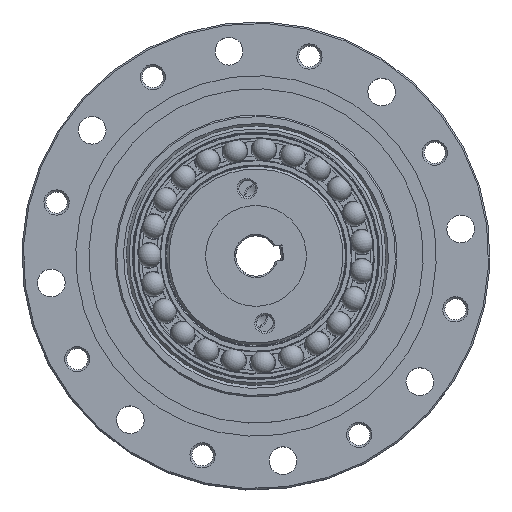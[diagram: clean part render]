
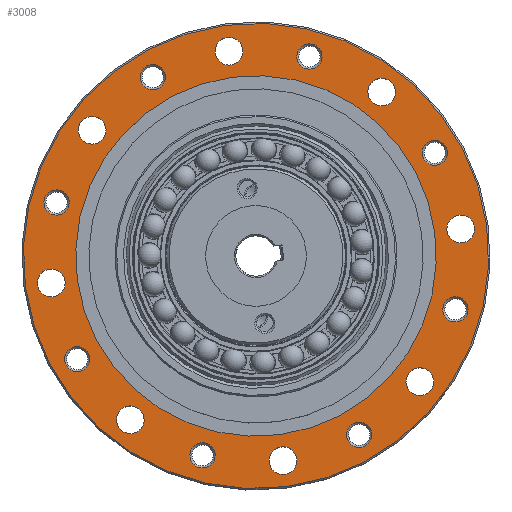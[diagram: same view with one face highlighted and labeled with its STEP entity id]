
A CAD part, top view. The second image highlights one B-rep face of the part: STEP entity #3008.
In plain terms, the highlighted planar face has unit normal (0, 0, 1) as drawn and (1, 0, 0) by its records, which use the part's own axes.
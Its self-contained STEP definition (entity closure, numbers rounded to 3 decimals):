
#1823=PLANE('',#10270);
#1976=FACE_BOUND('',#4088,.T.);
#1977=FACE_BOUND('',#4089,.T.);
#1978=FACE_BOUND('',#4090,.T.);
#1979=FACE_BOUND('',#4091,.T.);
#1980=FACE_BOUND('',#4092,.T.);
#1981=FACE_BOUND('',#4093,.T.);
#1982=FACE_BOUND('',#4094,.T.);
#1983=FACE_BOUND('',#4095,.T.);
#1984=FACE_BOUND('',#4096,.T.);
#1985=FACE_BOUND('',#4097,.T.);
#1986=FACE_BOUND('',#4098,.T.);
#1987=FACE_BOUND('',#4099,.T.);
#1988=FACE_BOUND('',#4100,.T.);
#1989=FACE_BOUND('',#4101,.T.);
#1990=FACE_BOUND('',#4102,.T.);
#1991=FACE_BOUND('',#4103,.T.);
#1992=FACE_BOUND('',#4104,.T.);
#1993=FACE_BOUND('',#4105,.T.);
#3008=ADVANCED_FACE('F17',(#1976,#1977,#1978,#1979,#1980,#1981,#1982,#1983,
#1984,#1985,#1986,#1987,#1988,#1989,#1990,#1991,#1992,#1993),#1823,.T.);
#4088=EDGE_LOOP('',(#5736));
#4089=EDGE_LOOP('',(#5737));
#4090=EDGE_LOOP('',(#5738));
#4091=EDGE_LOOP('',(#5739));
#4092=EDGE_LOOP('',(#5740));
#4093=EDGE_LOOP('',(#5741));
#4094=EDGE_LOOP('',(#5742));
#4095=EDGE_LOOP('',(#5743));
#4096=EDGE_LOOP('',(#5744));
#4097=EDGE_LOOP('',(#5745));
#4098=EDGE_LOOP('',(#5746));
#4099=EDGE_LOOP('',(#5747));
#4100=EDGE_LOOP('',(#5748));
#4101=EDGE_LOOP('',(#5749));
#4102=EDGE_LOOP('',(#5750));
#4103=EDGE_LOOP('',(#5751));
#4104=EDGE_LOOP('',(#5752));
#4105=EDGE_LOOP('',(#5753));
#5736=ORIENTED_EDGE('',*,*,#8497,.T.);
#5737=ORIENTED_EDGE('',*,*,#8498,.T.);
#5738=ORIENTED_EDGE('',*,*,#8499,.T.);
#5739=ORIENTED_EDGE('',*,*,#8500,.T.);
#5740=ORIENTED_EDGE('',*,*,#8501,.T.);
#5741=ORIENTED_EDGE('',*,*,#8502,.T.);
#5742=ORIENTED_EDGE('',*,*,#8503,.T.);
#5743=ORIENTED_EDGE('',*,*,#8504,.T.);
#5744=ORIENTED_EDGE('',*,*,#8455,.T.);
#5745=ORIENTED_EDGE('',*,*,#8493,.T.);
#5746=ORIENTED_EDGE('',*,*,#8487,.T.);
#5747=ORIENTED_EDGE('',*,*,#8481,.T.);
#5748=ORIENTED_EDGE('',*,*,#8475,.T.);
#5749=ORIENTED_EDGE('',*,*,#8452,.F.);
#5750=ORIENTED_EDGE('',*,*,#8478,.T.);
#5751=ORIENTED_EDGE('',*,*,#8484,.T.);
#5752=ORIENTED_EDGE('',*,*,#8490,.T.);
#5753=ORIENTED_EDGE('',*,*,#8496,.T.);
#7596=VERTEX_POINT('',#14534);
#7597=VERTEX_POINT('',#14538);
#7608=VERTEX_POINT('',#14578);
#7610=VERTEX_POINT('',#14584);
#7612=VERTEX_POINT('',#14590);
#7614=VERTEX_POINT('',#14596);
#7616=VERTEX_POINT('',#14602);
#7618=VERTEX_POINT('',#14608);
#7620=VERTEX_POINT('',#14614);
#7622=VERTEX_POINT('',#14620);
#7624=VERTEX_POINT('',#14626);
#7625=VERTEX_POINT('',#14628);
#7626=VERTEX_POINT('',#14630);
#7627=VERTEX_POINT('',#14632);
#7628=VERTEX_POINT('',#14634);
#7629=VERTEX_POINT('',#14636);
#7630=VERTEX_POINT('',#14638);
#7631=VERTEX_POINT('',#14640);
#8452=EDGE_CURVE('',#7596,#7596,#9454,.T.);
#8455=EDGE_CURVE('',#7597,#7597,#9456,.T.);
#8475=EDGE_CURVE('',#7608,#7608,#9467,.T.);
#8478=EDGE_CURVE('',#7610,#7610,#9469,.T.);
#8481=EDGE_CURVE('',#7612,#7612,#9471,.T.);
#8484=EDGE_CURVE('',#7614,#7614,#9473,.T.);
#8487=EDGE_CURVE('',#7616,#7616,#9475,.T.);
#8490=EDGE_CURVE('',#7618,#7618,#9477,.T.);
#8493=EDGE_CURVE('',#7620,#7620,#9479,.T.);
#8496=EDGE_CURVE('',#7622,#7622,#9481,.T.);
#8497=EDGE_CURVE('',#7624,#7624,#9482,.T.);
#8498=EDGE_CURVE('',#7625,#7625,#9483,.T.);
#8499=EDGE_CURVE('',#7626,#7626,#9484,.T.);
#8500=EDGE_CURVE('',#7627,#7627,#9485,.T.);
#8501=EDGE_CURVE('',#7628,#7628,#9486,.T.);
#8502=EDGE_CURVE('',#7629,#7629,#9487,.T.);
#8503=EDGE_CURVE('',#7630,#7630,#9488,.T.);
#8504=EDGE_CURVE('',#7631,#7631,#9489,.T.);
#9454=CIRCLE('',#10216,35.8);
#9456=CIRCLE('',#10219,46.2);
#9467=CIRCLE('',#10239,2.75);
#9469=CIRCLE('',#10242,2.75);
#9471=CIRCLE('',#10245,2.75);
#9473=CIRCLE('',#10248,2.75);
#9475=CIRCLE('',#10251,2.75);
#9477=CIRCLE('',#10254,2.75);
#9479=CIRCLE('',#10257,2.75);
#9481=CIRCLE('',#10260,2.75);
#9482=CIRCLE('',#10262,2.5);
#9483=CIRCLE('',#10263,2.5);
#9484=CIRCLE('',#10264,2.5);
#9485=CIRCLE('',#10265,2.5);
#9486=CIRCLE('',#10266,2.5);
#9487=CIRCLE('',#10267,2.5);
#9488=CIRCLE('',#10268,2.5);
#9489=CIRCLE('',#10269,2.5);
#10216=AXIS2_PLACEMENT_3D('',#14535,#11715,#11716);
#10219=AXIS2_PLACEMENT_3D('',#14541,#11722,#11723);
#10239=AXIS2_PLACEMENT_3D('',#14581,#11771,#11772);
#10242=AXIS2_PLACEMENT_3D('',#14587,#11778,#11779);
#10245=AXIS2_PLACEMENT_3D('',#14593,#11785,#11786);
#10248=AXIS2_PLACEMENT_3D('',#14599,#11792,#11793);
#10251=AXIS2_PLACEMENT_3D('',#14605,#11799,#11800);
#10254=AXIS2_PLACEMENT_3D('',#14611,#11806,#11807);
#10257=AXIS2_PLACEMENT_3D('',#14617,#11813,#11814);
#10260=AXIS2_PLACEMENT_3D('',#14623,#11820,#11821);
#10262=AXIS2_PLACEMENT_3D('',#14625,#11824,#11825);
#10263=AXIS2_PLACEMENT_3D('',#14627,#11826,#11827);
#10264=AXIS2_PLACEMENT_3D('',#14629,#11828,#11829);
#10265=AXIS2_PLACEMENT_3D('',#14631,#11830,#11831);
#10266=AXIS2_PLACEMENT_3D('',#14633,#11832,#11833);
#10267=AXIS2_PLACEMENT_3D('',#14635,#11834,#11835);
#10268=AXIS2_PLACEMENT_3D('',#14637,#11836,#11837);
#10269=AXIS2_PLACEMENT_3D('',#14639,#11838,#11839);
#10270=AXIS2_PLACEMENT_3D('',#14641,#11840,#11841);
#11715=DIRECTION('',(1.,0.,0.));
#11716=DIRECTION('',(0.,0.,1.));
#11722=DIRECTION('',(1.,0.,0.));
#11723=DIRECTION('',(0.,0.,1.));
#11771=DIRECTION('',(-1.,0.,0.));
#11772=DIRECTION('',(0.,0.,-1.));
#11778=DIRECTION('',(-1.,0.,0.));
#11779=DIRECTION('',(0.,-0.707,-0.707));
#11785=DIRECTION('',(-1.,0.,0.));
#11786=DIRECTION('',(0.,-1.,0.));
#11792=DIRECTION('',(-1.,0.,0.));
#11793=DIRECTION('',(0.,-0.707,0.707));
#11799=DIRECTION('',(-1.,0.,0.));
#11800=DIRECTION('',(0.,0.,1.));
#11806=DIRECTION('',(-1.,0.,0.));
#11807=DIRECTION('',(0.,0.707,0.707));
#11813=DIRECTION('',(-1.,0.,0.));
#11814=DIRECTION('',(0.,1.,0.));
#11820=DIRECTION('',(-1.,0.,0.));
#11821=DIRECTION('',(0.,0.707,-0.707));
#11824=DIRECTION('',(-1.,0.,0.));
#11825=DIRECTION('',(0.,0.,-1.));
#11826=DIRECTION('',(-1.,0.,0.));
#11827=DIRECTION('',(0.,0.,-1.));
#11828=DIRECTION('',(-1.,0.,0.));
#11829=DIRECTION('',(0.,0.,-1.));
#11830=DIRECTION('',(-1.,0.,0.));
#11831=DIRECTION('',(0.,0.,-1.));
#11832=DIRECTION('',(-1.,0.,0.));
#11833=DIRECTION('',(0.,0.,-1.));
#11834=DIRECTION('',(-1.,0.,0.));
#11835=DIRECTION('',(0.,0.,-1.));
#11836=DIRECTION('',(-1.,0.,0.));
#11837=DIRECTION('',(0.,0.,-1.));
#11838=DIRECTION('',(-1.,0.,0.));
#11839=DIRECTION('',(0.,0.,-1.));
#11840=DIRECTION('',(1.,0.,0.));
#11841=DIRECTION('',(0.,0.,1.));
#14534=CARTESIAN_POINT('',(23.8,0.,35.8));
#14535=CARTESIAN_POINT('',(23.8,0.,0.));
#14538=CARTESIAN_POINT('',(23.8,0.,46.2));
#14541=CARTESIAN_POINT('',(23.8,0.,0.));
#14578=CARTESIAN_POINT('',(23.8,0.,38.25));
#14581=CARTESIAN_POINT('',(23.8,0.,41.));
#14584=CARTESIAN_POINT('',(23.8,27.047,27.047));
#14587=CARTESIAN_POINT('',(23.8,28.991,28.991));
#14590=CARTESIAN_POINT('',(23.8,38.25,0.));
#14593=CARTESIAN_POINT('',(23.8,41.,0.));
#14596=CARTESIAN_POINT('',(23.8,27.047,-27.047));
#14599=CARTESIAN_POINT('',(23.8,28.991,-28.991));
#14602=CARTESIAN_POINT('',(23.8,0.,-38.25));
#14605=CARTESIAN_POINT('',(23.8,0.,-41.));
#14608=CARTESIAN_POINT('',(23.8,-27.047,-27.047));
#14611=CARTESIAN_POINT('',(23.8,-28.991,-28.991));
#14614=CARTESIAN_POINT('',(23.8,-38.25,0.));
#14617=CARTESIAN_POINT('',(23.8,-41.,0.));
#14620=CARTESIAN_POINT('',(23.8,-27.047,27.047));
#14623=CARTESIAN_POINT('',(23.8,-28.991,28.991));
#14625=CARTESIAN_POINT('',(23.8,37.879,-15.69));
#14626=CARTESIAN_POINT('',(23.8,37.879,-18.19));
#14627=CARTESIAN_POINT('',(23.8,15.69,-37.879));
#14628=CARTESIAN_POINT('',(23.8,15.69,-40.379));
#14629=CARTESIAN_POINT('',(23.8,-15.69,-37.879));
#14630=CARTESIAN_POINT('',(23.8,-15.69,-40.379));
#14631=CARTESIAN_POINT('',(23.8,-37.879,-15.69));
#14632=CARTESIAN_POINT('',(23.8,-37.879,-18.19));
#14633=CARTESIAN_POINT('',(23.8,-37.879,15.69));
#14634=CARTESIAN_POINT('',(23.8,-37.879,13.19));
#14635=CARTESIAN_POINT('',(23.8,-15.69,37.879));
#14636=CARTESIAN_POINT('',(23.8,-15.69,35.379));
#14637=CARTESIAN_POINT('',(23.8,15.69,37.879));
#14638=CARTESIAN_POINT('',(23.8,15.69,35.379));
#14639=CARTESIAN_POINT('',(23.8,37.879,15.69));
#14640=CARTESIAN_POINT('',(23.8,37.879,13.19));
#14641=CARTESIAN_POINT('',(23.8,0.,0.));
